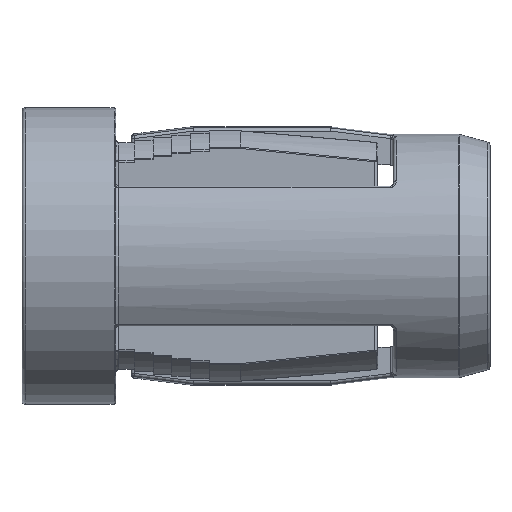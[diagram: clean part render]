
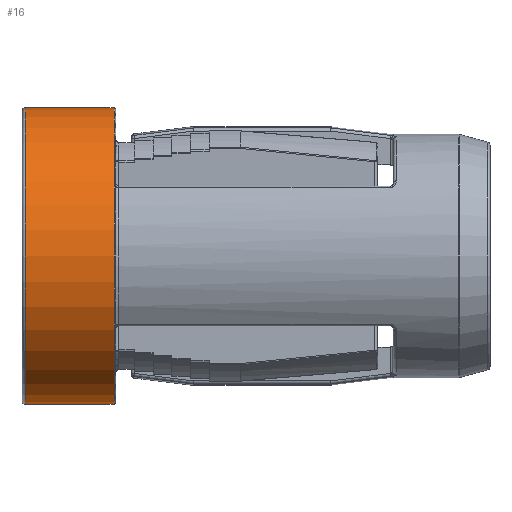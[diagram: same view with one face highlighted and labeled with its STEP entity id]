
A CAD part, left-side view. The second image highlights one B-rep face of the part: STEP entity #16.
In plain terms, the highlighted cylindrical face has radius 4.75 mm (diameter 9.5 mm), a partial arc.
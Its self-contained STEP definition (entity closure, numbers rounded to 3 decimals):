
#16 = ADVANCED_FACE ( 'NONE', ( #2355 ), #11570, .T. ) ;
#698 = ORIENTED_EDGE ( 'NONE', *, *, #9796, .T. ) ;
#730 = CARTESIAN_POINT ( 'NONE',  ( 0., 0.05, 4.75 ) ) ;
#1361 = AXIS2_PLACEMENT_3D ( 'NONE', #7275, #9492, #4354 ) ;
#1591 = EDGE_CURVE ( 'NONE', #11243, #2813, #11075, .T. ) ;
#1841 = ORIENTED_EDGE ( 'NONE', *, *, #3190, .T. ) ;
#2290 = DIRECTION ( 'NONE',  ( 0., 0., -1. ) ) ;
#2355 = FACE_OUTER_BOUND ( 'NONE', #2360, .T. ) ;
#2360 = EDGE_LOOP ( 'NONE', ( #12111, #6849, #698, #1841 ) ) ;
#2497 = CARTESIAN_POINT ( 'NONE',  ( 0., -994.709, 4.75 ) ) ;
#2813 = VERTEX_POINT ( 'NONE', #12851 ) ;
#3190 = EDGE_CURVE ( 'NONE', #13345, #5089, #7204, .T. ) ;
#3380 = LINE ( 'NONE', #7506, #9962 ) ;
#4354 = DIRECTION ( 'NONE',  ( 0., 0., 1. ) ) ;
#4392 = VECTOR ( 'NONE', #6617, 1000. ) ;
#4452 = CARTESIAN_POINT ( 'NONE',  ( 0., -994.709, 0. ) ) ;
#4529 = LINE ( 'NONE', #2497, #4392 ) ;
#5089 = VERTEX_POINT ( 'NONE', #730 ) ;
#6475 = DIRECTION ( 'NONE',  ( 0., -1., 0. ) ) ;
#6617 = DIRECTION ( 'NONE',  ( 0., -1., 0. ) ) ;
#6849 = ORIENTED_EDGE ( 'NONE', *, *, #1591, .T. ) ;
#7145 = AXIS2_PLACEMENT_3D ( 'NONE', #4452, #6475, #2290 ) ;
#7204 = CIRCLE ( 'NONE', #1361, 4.75 ) ;
#7275 = CARTESIAN_POINT ( 'NONE',  ( 0., 0.05, 0. ) ) ;
#7506 = CARTESIAN_POINT ( 'NONE',  ( 0., -994.709, -4.75 ) ) ;
#7622 = DIRECTION ( 'NONE',  ( 0., -1., 0. ) ) ;
#9492 = DIRECTION ( 'NONE',  ( 0., 1., 0. ) ) ;
#9796 = EDGE_CURVE ( 'NONE', #2813, #13345, #3380, .T. ) ;
#9962 = VECTOR ( 'NONE', #10600, 1000. ) ;
#10600 = DIRECTION ( 'NONE',  ( 0., -1., 0. ) ) ;
#11075 = CIRCLE ( 'NONE', #11084, 4.75 ) ;
#11084 = AXIS2_PLACEMENT_3D ( 'NONE', #12023, #7622, #11761 ) ;
#11243 = VERTEX_POINT ( 'NONE', #13352 ) ;
#11570 = CYLINDRICAL_SURFACE ( 'NONE', #7145, 4.75 ) ;
#11749 = CARTESIAN_POINT ( 'NONE',  ( 0., 0.05, -4.75 ) ) ;
#11761 = DIRECTION ( 'NONE',  ( 0., 0., -1. ) ) ;
#11823 = EDGE_CURVE ( 'NONE', #11243, #5089, #4529, .T. ) ;
#12023 = CARTESIAN_POINT ( 'NONE',  ( 0., 2.9, 0. ) ) ;
#12111 = ORIENTED_EDGE ( 'NONE', *, *, #11823, .F. ) ;
#12851 = CARTESIAN_POINT ( 'NONE',  ( 0., 2.9, -4.75 ) ) ;
#13345 = VERTEX_POINT ( 'NONE', #11749 ) ;
#13352 = CARTESIAN_POINT ( 'NONE',  ( 0., 2.9, 4.75 ) ) ;
